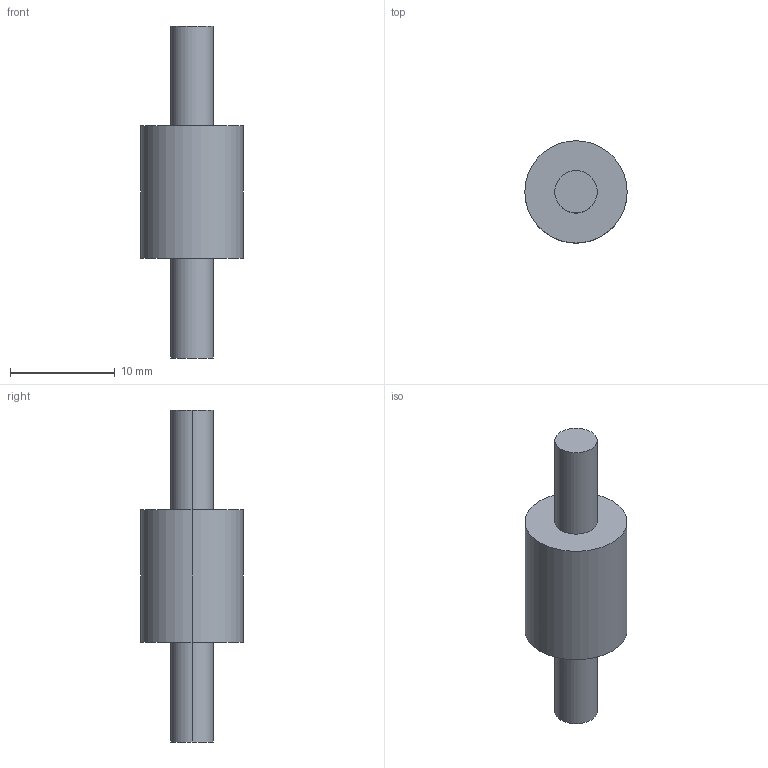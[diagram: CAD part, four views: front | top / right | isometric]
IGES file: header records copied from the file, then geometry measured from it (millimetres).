
Global section: file name: C:\Documents and Settings\Administrator\Desktop\Transfer Temp\vibrationmount.igs; native system: AutoDesk Inventor R2.0 ; preprocessor: AutoDesk Inventor Iges Exporter R2.0; author: No Author specified; organization: No Organization specified; date: 20020113.191013; units: inch
Bounding box: 9.78 x 9.78 x 31.75 mm (x, y, z)
Surface area: 835.5 mm2 (no closed solid volume)
Topology: 0 solids, 0 shells, 12 faces, 36 edges, 36 vertices
Faces by surface type: revolution 6, bspline 6
